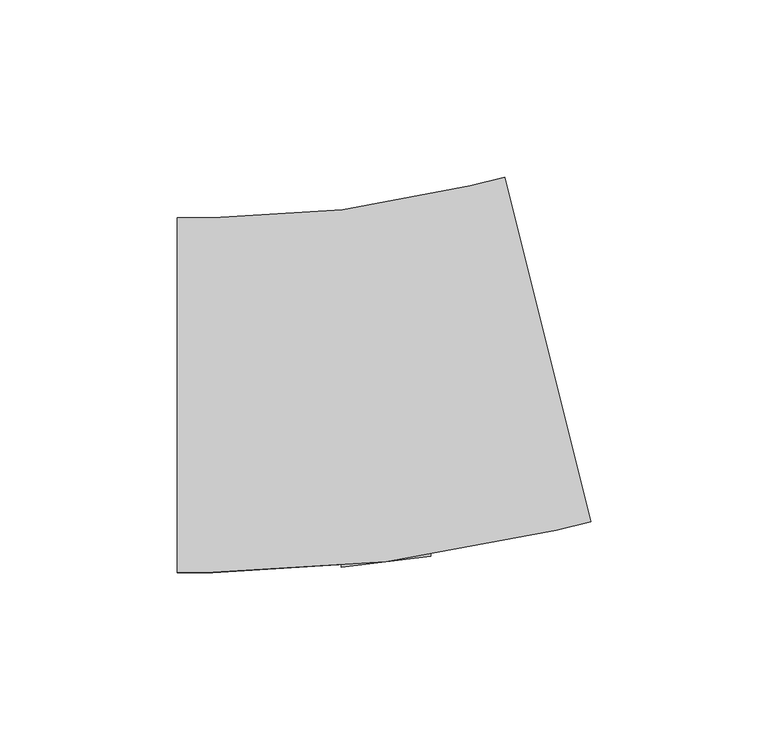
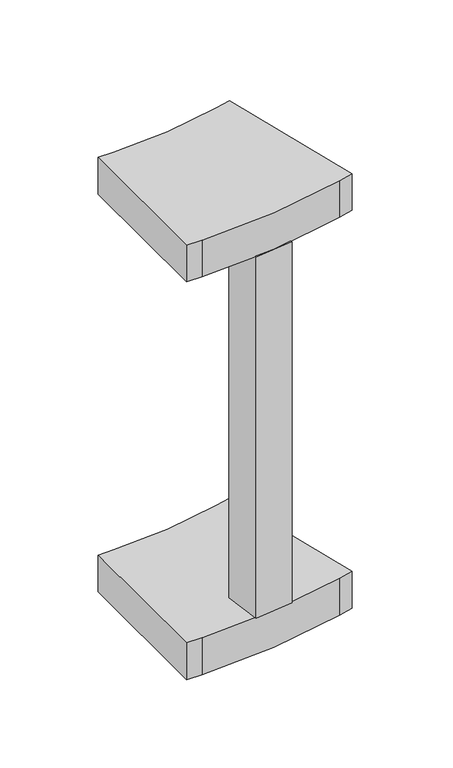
"""IFC4 building model written with IfcOpenShell, lengths in millimetres: cable carrier fitting geometry, ADSK_Поворот вертикальный внутренний_Лестничный лоток : Радиус 300 мм."""

from ifc_helpers import new_model, si_unit, point, frame, frame_2d, origin, place, context, project, spatial, polyline, circle_curve, trimmed, segment, composite_curve, outline, extrude, source, transform, mapped, element, save


def cable_carrier_fitting_a6b9008f(model_context):
    return source(origin(), model_context, "Body", "SweptSolid", [
        extrude(outline(polyline([(15.2829958, -20.2600478), (18.3784772, -45.47072), (-6.8321951, -48.5662013), (-9.9276764, -23.3555291), (15.2829958, -20.2600478)])), frame((0.0, 0.0, -124.6), z_axis=(0.0, 0.0, 1.0), x_axis=(1.0, 0.0, 0.0)), (0.0, 0.0, 1.0), 249.2),
        extrude(outline(composite_curve([segment(polyline([(-52.9745963, -50.0), (-52.9745963, 50.0), (-42.9745963, 50.0)]), True, "CONTINUOUS"), segment(trimmed(circle_curve(frame_2d((-42.9745963, 350.0)), 300.0), [point((-42.9745963, 50.0))], [point((29.6019724, 58.9112821))], True, "CARTESIAN"), True, "CONTINUOUS"), segment(polyline([(29.6019724, 58.9112821), (39.3049296, 61.3305011), (63.4971192, -35.6990716), (53.7941619, -38.1182905)]), True, "CONTINUOUS"), segment(trimmed(circle_curve(frame_2d((-42.9745963, 350.0)), 400.0), [point((53.7941619, -38.1182905))], [point((-42.9745963, -50.0))], False, "CARTESIAN"), True, "CONTINUOUS"), segment(polyline([(-42.9745963, -50.0), (-52.9745963, -50.0)]), True, "CONTINUOUS")], self_intersect=False)), frame((0.0, 0.0, 124.6), z_axis=(0.0, 0.0, 1.0), x_axis=(1.0, 0.0, 0.0)), (0.0, 0.0, 1.0), 25.4),
        extrude(outline(composite_curve([segment(polyline([(-52.9745963, -50.0), (-52.9745963, 50.0), (-42.9745963, 50.0)]), True, "CONTINUOUS"), segment(trimmed(circle_curve(frame_2d((-42.9745963, 350.0)), 300.0), [point((-42.9745963, 50.0))], [point((29.6019724, 58.9112821))], True, "CARTESIAN"), True, "CONTINUOUS"), segment(polyline([(29.6019724, 58.9112821), (39.3049296, 61.3305011), (63.4971192, -35.6990716), (53.7941619, -38.1182905)]), True, "CONTINUOUS"), segment(trimmed(circle_curve(frame_2d((-42.9745963, 350.0)), 400.0), [point((53.7941619, -38.1182905))], [point((-42.9745963, -50.0))], False, "CARTESIAN"), True, "CONTINUOUS"), segment(polyline([(-42.9745963, -50.0), (-52.9745963, -50.0)]), True, "CONTINUOUS")], self_intersect=False)), frame((0.0, 0.0, -150.0), z_axis=(0.0, 0.0, 1.0), x_axis=(1.0, 0.0, 0.0)), (0.0, 0.0, 1.0), 25.4),
    ])


if __name__ == "__main__":
    model = new_model("IFC4")
    model_context = context("Model", 3, world=origin())
    ifc_project = project(units=[si_unit("LENGTHUNIT", "METRE", prefix="MILLI")], contexts=[model_context])
    site = spatial("IfcSite", under=ifc_project)
    building = spatial("IfcBuilding", under=site)
    placement = place(None, origin())
    cable_carrier_fitting_shape = cable_carrier_fitting_a6b9008f(model_context)
    element("IfcCableCarrierFitting", 1, ObjectType="ADSK_Поворот вертикальный внутренний_Лестничный лоток : Радиус 300 мм", at=placement, inside=building, context=model_context, shape_type="MappedRepresentation", body=[
        mapped(cable_carrier_fitting_shape, transform((0.0, 0.0, 0.0), x_axis=(1.0, 0.0, 0.0), y_axis=(0.0, 1.0, 0.0), z_axis=(0.0, 0.0, 1.0))),
    ])
    save(model, "model.ifc")
